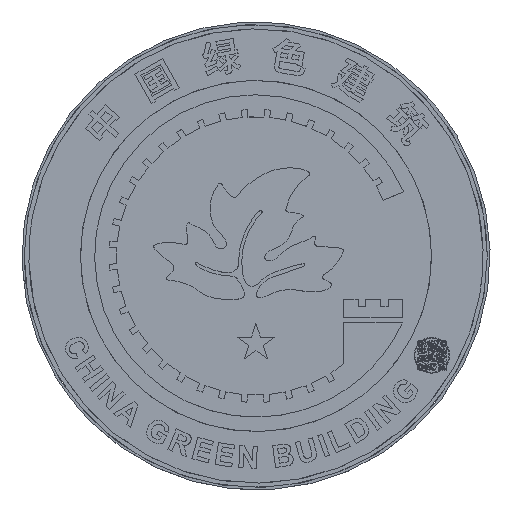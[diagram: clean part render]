
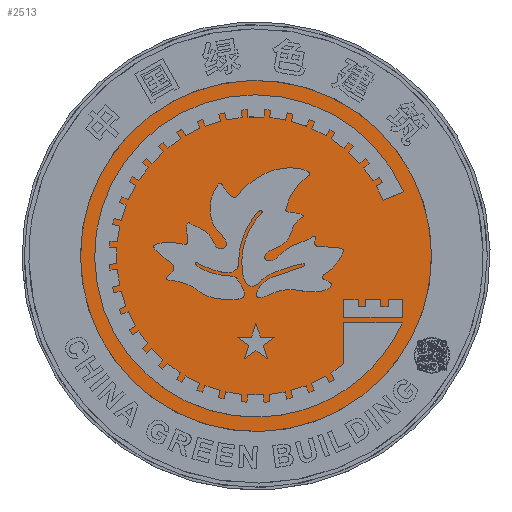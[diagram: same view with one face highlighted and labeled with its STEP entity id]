
A CAD part, top view. The second image highlights one B-rep face of the part: STEP entity #2513.
In plain terms, the highlighted planar face has unit normal (0, 0, 1).
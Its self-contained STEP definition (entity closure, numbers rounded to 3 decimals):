
#2513=ADVANCED_FACE('',(#4767),#31899,.T.);
#4767=FACE_OUTER_BOUND('',#7063,.T.);
#7063=EDGE_LOOP('',(#13809,#13810));
#13809=ORIENTED_EDGE('',*,*,#20801,.T.);
#13810=ORIENTED_EDGE('',*,*,#20804,.T.);
#20801=EDGE_CURVE('',#29820,#29822,#25817,.T.);
#20804=EDGE_CURVE('',#29822,#29820,#25820,.T.);
#25817=B_SPLINE_CURVE_WITH_KNOTS('',3,(#65529,#65530,#65531,#65532,#65533,
#65534,#65535,#65536,#65537,#65538,#65539,#65540,#65541),.UNSPECIFIED.,
 .F.,.F.,(4,3,3,3,4),(-9.,-8.,-7.,-6.,-5.),.UNSPECIFIED.);
#25820=B_SPLINE_CURVE_WITH_KNOTS('',3,(#65557,#65558,#65559,#65560,#65561,
#65562,#65563,#65564,#65565,#65566,#65567,#65568,#65569),.UNSPECIFIED.,
 .F.,.F.,(4,3,3,3,4),(-5.,-4.,-3.,-2.,-1.),.UNSPECIFIED.);
#29820=VERTEX_POINT('',#65511);
#29822=VERTEX_POINT('',#65513);
#31899=PLANE('',#34173);
#34173=AXIS2_PLACEMENT_3D('',#65483,#34967,$);
#34967=DIRECTION('',(0.,0.,1.));
#65483=CARTESIAN_POINT('',(7935.217,2853.292,-10.));
#65511=CARTESIAN_POINT('',(7837.223,2490.165,-10.));
#65513=CARTESIAN_POINT('',(7564.308,2747.521,-10.));
#65529=CARTESIAN_POINT('',(7837.223,2490.165,-10.));
#65530=CARTESIAN_POINT('',(7871.399,2526.41,-10.));
#65531=CARTESIAN_POINT('',(7889.706,2574.547,-10.));
#65532=CARTESIAN_POINT('',(7888.245,2624.34,-10.));
#65533=CARTESIAN_POINT('',(7886.785,2674.14,-10.));
#65534=CARTESIAN_POINT('',(7865.687,2721.123,-10.));
#65535=CARTESIAN_POINT('',(7829.442,2755.299,-10.));
#65536=CARTESIAN_POINT('',(7793.201,2789.479,-10.));
#65537=CARTESIAN_POINT('',(7745.06,2807.781,-10.));
#65538=CARTESIAN_POINT('',(7695.267,2806.321,-10.));
#65539=CARTESIAN_POINT('',(7645.468,2804.861,-10.));
#65540=CARTESIAN_POINT('',(7598.488,2783.766,-10.));
#65541=CARTESIAN_POINT('',(7564.308,2747.521,-10.));
#65557=CARTESIAN_POINT('',(7564.308,2747.521,-10.));
#65558=CARTESIAN_POINT('',(7530.131,2711.276,-10.));
#65559=CARTESIAN_POINT('',(7511.826,2663.141,-10.));
#65560=CARTESIAN_POINT('',(7513.286,2613.343,-10.));
#65561=CARTESIAN_POINT('',(7514.746,2563.547,-10.));
#65562=CARTESIAN_POINT('',(7535.841,2516.564,-10.));
#65563=CARTESIAN_POINT('',(7572.086,2482.384,-10.));
#65564=CARTESIAN_POINT('',(7608.331,2448.208,-10.));
#65565=CARTESIAN_POINT('',(7656.466,2429.905,-10.));
#65566=CARTESIAN_POINT('',(7706.264,2431.366,-10.));
#65567=CARTESIAN_POINT('',(7756.06,2432.826,-10.));
#65568=CARTESIAN_POINT('',(7803.044,2453.92,-10.));
#65569=CARTESIAN_POINT('',(7837.223,2490.165,-10.));
